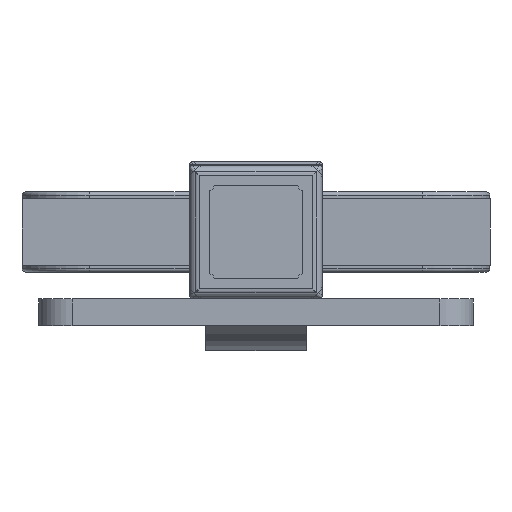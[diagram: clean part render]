
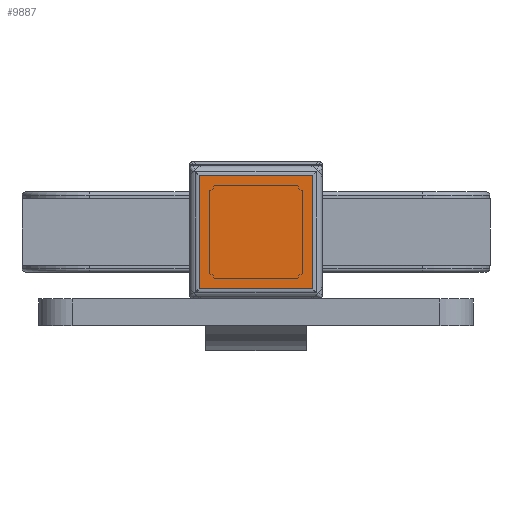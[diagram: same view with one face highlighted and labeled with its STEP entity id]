
A CAD part, front view. The second image highlights one B-rep face of the part: STEP entity #9887.
In plain terms, the highlighted planar face has unit normal (0, -1, 0).
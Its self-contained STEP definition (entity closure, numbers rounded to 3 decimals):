
#139 = VECTOR ( 'NONE', #5463, 1000. ) ;
#485 = VECTOR ( 'NONE', #11124, 1000. ) ;
#1249 = VERTEX_POINT ( 'NONE', #8699 ) ;
#1327 = CARTESIAN_POINT ( 'NONE',  ( -17., -5., -19. ) ) ;
#1450 = CARTESIAN_POINT ( 'NONE',  ( 0., -5., 0. ) ) ;
#1807 = ORIENTED_EDGE ( 'NONE', *, *, #2175, .T. ) ;
#2095 = ORIENTED_EDGE ( 'NONE', *, *, #7897, .T. ) ;
#2140 = CARTESIAN_POINT ( 'NONE',  ( -17., -5., -17. ) ) ;
#2175 = EDGE_CURVE ( 'NONE', #7969, #15222, #12168, .T. ) ;
#2430 = DIRECTION ( 'NONE',  ( 0., 0., 1. ) ) ;
#3916 = LINE ( 'NONE', #5990, #6398 ) ;
#5463 = DIRECTION ( 'NONE',  ( 1., 0., 0. ) ) ;
#5572 = ORIENTED_EDGE ( 'NONE', *, *, #10929, .T. ) ;
#5574 = VERTEX_POINT ( 'NONE', #10551 ) ;
#5990 = CARTESIAN_POINT ( 'NONE',  ( 17., -5., 19. ) ) ;
#6331 = FACE_OUTER_BOUND ( 'NONE', #10248, .T. ) ;
#6356 = DIRECTION ( 'NONE',  ( 0., 0., 1. ) ) ;
#6398 = VECTOR ( 'NONE', #2430, 1000. ) ;
#6408 = CARTESIAN_POINT ( 'NONE',  ( -19., -5., 17. ) ) ;
#6982 = LINE ( 'NONE', #6408, #485 ) ;
#7897 = EDGE_CURVE ( 'NONE', #5574, #1249, #3916, .T. ) ;
#7969 = VERTEX_POINT ( 'NONE', #10925 ) ;
#8095 = EDGE_CURVE ( 'NONE', #1249, #7969, #6982, .T. ) ;
#8615 = DIRECTION ( 'NONE',  ( 0., 0., -1. ) ) ;
#8676 = PLANE ( 'NONE',  #14187 ) ;
#8699 = CARTESIAN_POINT ( 'NONE',  ( 17., -5., 17. ) ) ;
#9075 = VECTOR ( 'NONE', #8615, 1000. ) ;
#9887 = ADVANCED_FACE ( 'NONE', ( #6331 ), #8676, .T. ) ;
#10248 = EDGE_LOOP ( 'NONE', ( #2095, #11290, #1807, #5572 ) ) ;
#10551 = CARTESIAN_POINT ( 'NONE',  ( 17., -5., -17. ) ) ;
#10925 = CARTESIAN_POINT ( 'NONE',  ( -17., -5., 17. ) ) ;
#10929 = EDGE_CURVE ( 'NONE', #15222, #5574, #15273, .T. ) ;
#11124 = DIRECTION ( 'NONE',  ( -1., 0., 0. ) ) ;
#11290 = ORIENTED_EDGE ( 'NONE', *, *, #8095, .T. ) ;
#12168 = LINE ( 'NONE', #1327, #9075 ) ;
#12579 = CARTESIAN_POINT ( 'NONE',  ( 19., -5., -17. ) ) ;
#13414 = DIRECTION ( 'NONE',  ( 0., -1., 0. ) ) ;
#14187 = AXIS2_PLACEMENT_3D ( 'NONE', #1450, #13414, #6356 ) ;
#15222 = VERTEX_POINT ( 'NONE', #2140 ) ;
#15273 = LINE ( 'NONE', #12579, #139 ) ;
